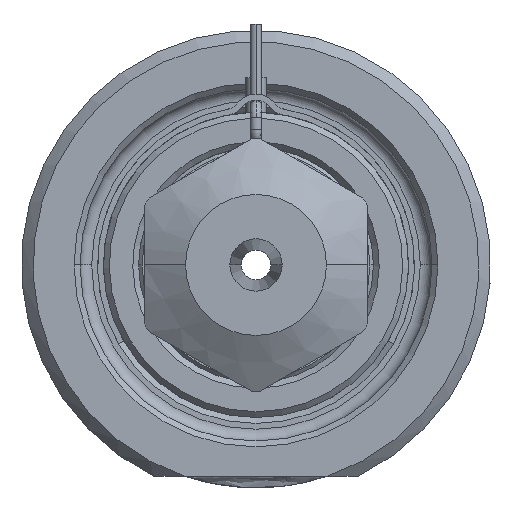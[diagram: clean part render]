
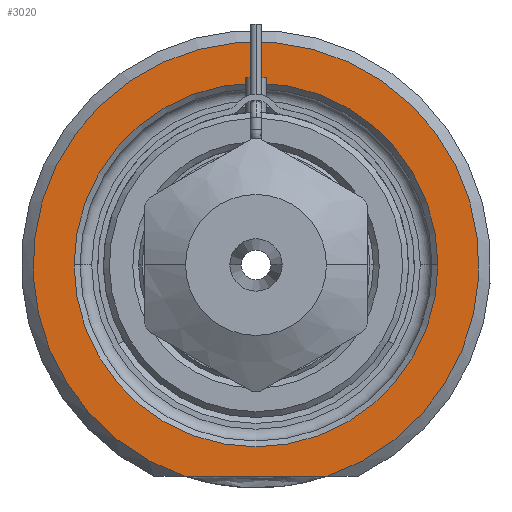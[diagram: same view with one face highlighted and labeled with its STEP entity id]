
A CAD part, front view. The second image highlights one B-rep face of the part: STEP entity #3020.
In plain terms, the highlighted planar face has unit normal (0, -1, 0).
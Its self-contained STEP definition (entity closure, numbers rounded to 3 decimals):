
#1=DIRECTION('',(1.,0.,0.));
#2=VECTOR('',#1,12.166);
#3=CARTESIAN_POINT('',(-6.083,0.,-18.));
#4=LINE('',#3,#2);
#5=CARTESIAN_POINT('',(0.,0.,0.));
#6=DIRECTION('',(0.,1.,0.));
#7=DIRECTION('',(-1.,0.,0.));
#8=AXIS2_PLACEMENT_3D('',#5,#6,#7);
#10=CARTESIAN_POINT('',(0.,0.,0.));
#11=DIRECTION('',(0.,1.,0.));
#12=DIRECTION('',(1.,0.,0.));
#13=AXIS2_PLACEMENT_3D('',#10,#11,#12);
#264=CARTESIAN_POINT('',(0.,0.,0.));
#265=DIRECTION('',(0.,-1.,0.));
#266=DIRECTION('',(0.32,0.,-0.947));
#267=AXIS2_PLACEMENT_3D('',#264,#265,#266);
#2547=CARTESIAN_POINT('',(-15.5,0.,0.));
#2548=CARTESIAN_POINT('',(15.5,0.,0.));
#2549=VERTEX_POINT('',#2547);
#2550=VERTEX_POINT('',#2548);
#2605=CARTESIAN_POINT('',(-6.083,0.,-18.));
#2606=CARTESIAN_POINT('',(6.083,0.,-18.));
#2607=VERTEX_POINT('',#2605);
#2608=VERTEX_POINT('',#2606);
#3003=CARTESIAN_POINT('',(0.,0.,0.));
#3004=DIRECTION('',(0.,-1.,0.));
#3005=DIRECTION('',(1.,0.,0.));
#3006=AXIS2_PLACEMENT_3D('',#3003,#3004,#3005);
#3007=PLANE('',#3006);
#3009=ORIENTED_EDGE('',*,*,#3008,.F.);
#3011=ORIENTED_EDGE('',*,*,#3010,.F.);
#3012=EDGE_LOOP('',(#3009,#3011));
#3013=FACE_OUTER_BOUND('',#3012,.F.);
#3015=ORIENTED_EDGE('',*,*,#3014,.F.);
#3017=ORIENTED_EDGE('',*,*,#3016,.F.);
#3018=EDGE_LOOP('',(#3015,#3017));
#3019=FACE_BOUND('',#3018,.F.);
#3020=ADVANCED_FACE('',(#3013,#3019),#3007,.T.);
#9=CIRCLE('',#8,15.5);
#14=CIRCLE('',#13,15.5);
#268=CIRCLE('',#267,19.);
#3008=EDGE_CURVE('',#2607,#2608,#4,.T.);
#3010=EDGE_CURVE('',#2608,#2607,#268,.T.);
#3014=EDGE_CURVE('',#2549,#2550,#9,.T.);
#3016=EDGE_CURVE('',#2550,#2549,#14,.T.);
